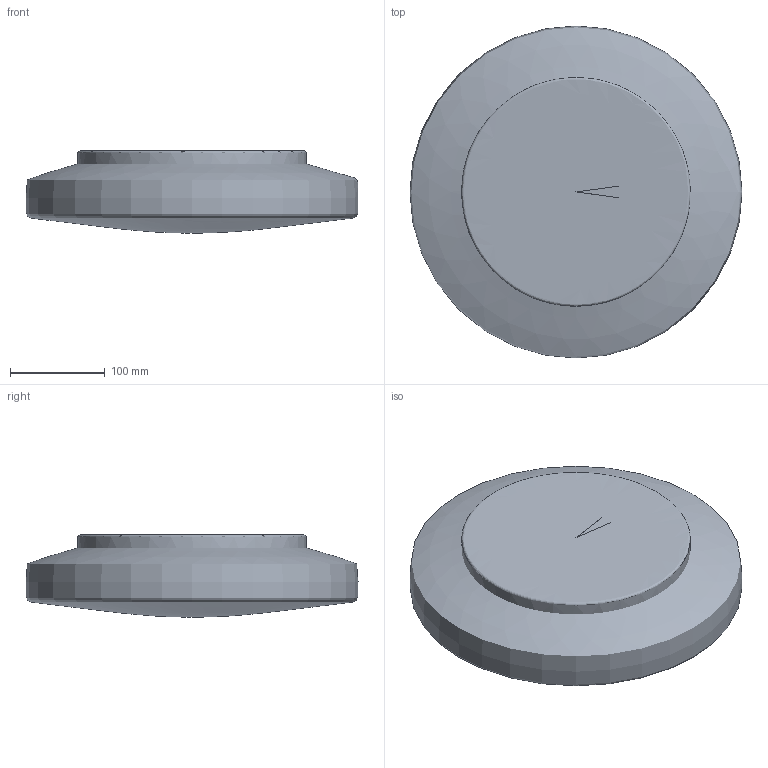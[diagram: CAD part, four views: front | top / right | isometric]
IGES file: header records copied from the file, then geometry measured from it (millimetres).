
Global section: file name: C:\Users\EQUIPO\Desktop\COLECCIONES ACB MODELADAS 3D OK\MOON\moon-969-35 (IGES).igs; native system: Rhinoceros ( Oct  8 2013 ); preprocessor: Trout Lake IGES 012 Oct  8 2013; date: 190207.111717; units: millimetre
Bounding box: 350 x 350 x 86.69 mm (x, y, z)
Surface area: 267664.1 mm2 (no closed solid volume)
Topology: 0 solids, 0 shells, 2 faces, 18 edges, 20 vertices
Faces by surface type: bspline 2
